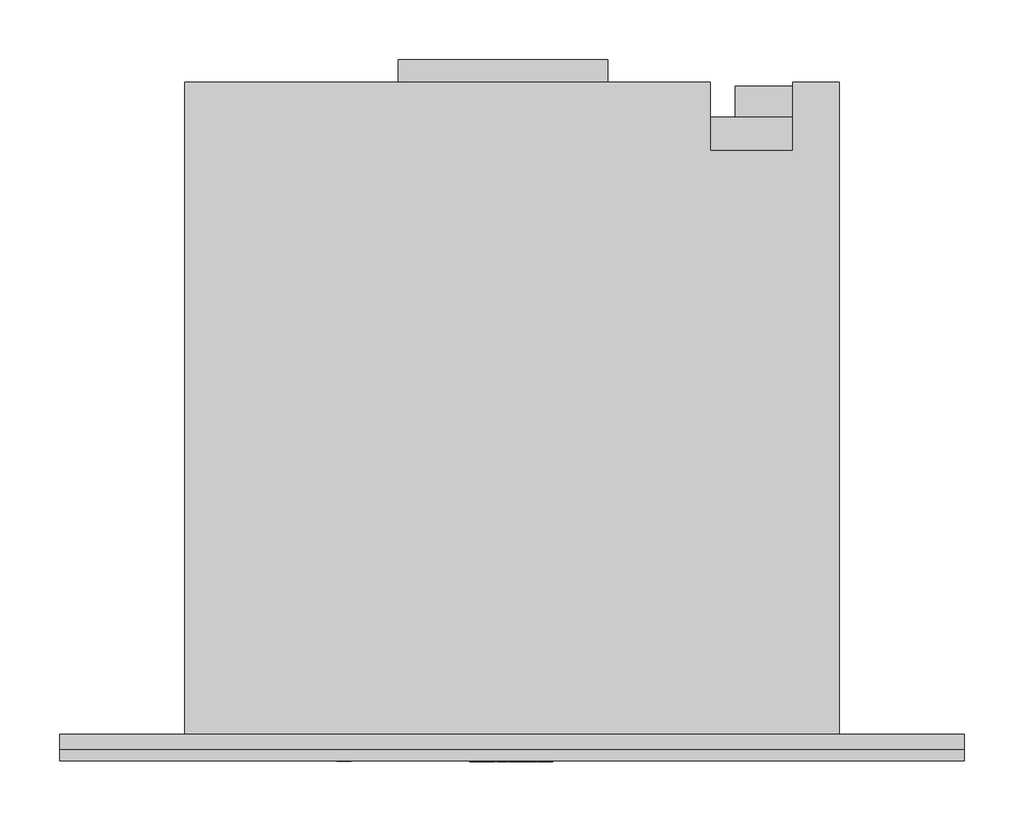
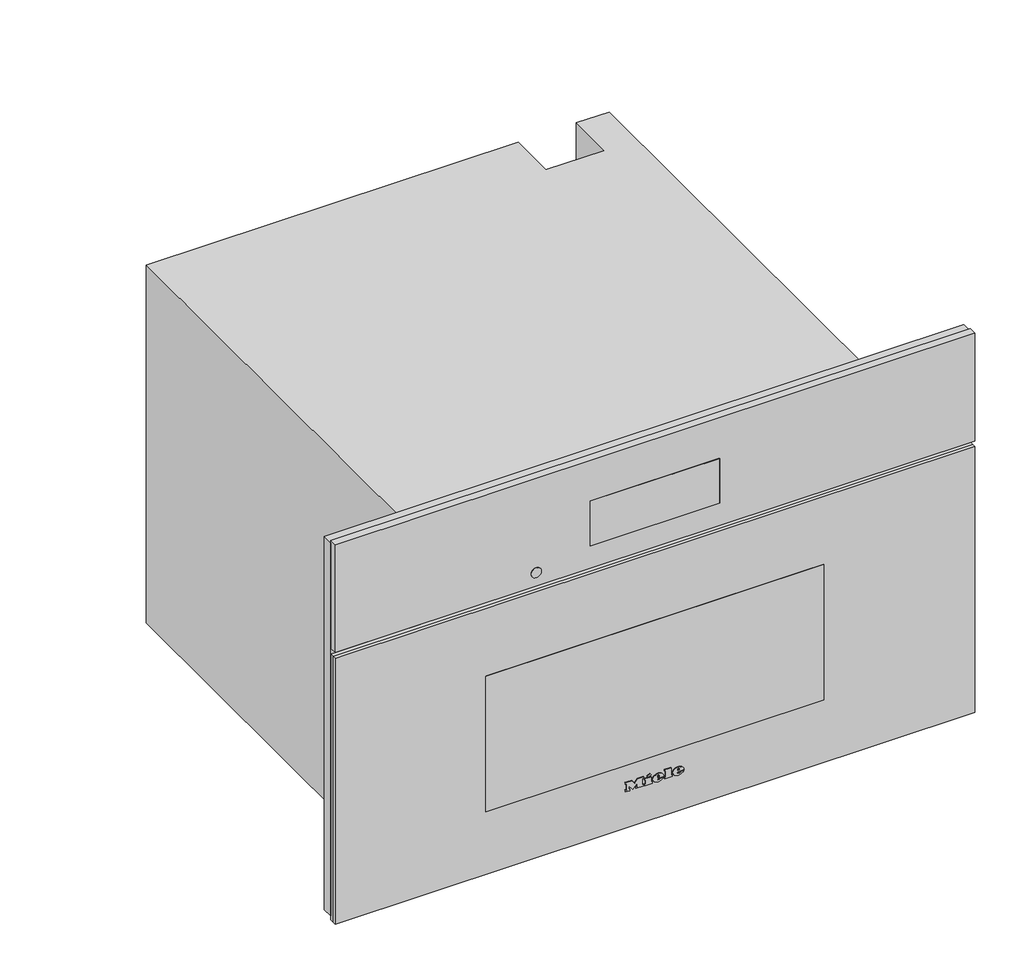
# Not in any storey: 1 proxy.
"""IFC4 building model written with IfcOpenShell, lengths in millimetres."""

import ifcopenshell
import ifcopenshell.guid

model = None  # the IFC model being written
_history = None  # IfcOwnerHistory: only IFC2X3 demands one
_inside = {}  # id of a spatial element -> (the spatial element, [elements in it])
_under = {}  # id of a project, library or spatial element -> (it, [spatial elements below it])
_declared = {}  # id of a project -> (the project, [libraries it declares])
_typed = {}  # id of a type object -> (the type object, [elements of that type])
_made_of = {}  # id of a material, layer set ... -> (it, [elements and type objects made of it])


def new_model(schema):
    """Start an empty IFC model of exactly this schema.

    Asked for "IFC4X3", IfcOpenShell would pick the latest addendum, in which some entities
    have other attributes; the version numbers below select the first issue.
    IFC2X3 requires an IfcOwnerHistory on every rooted entity: one is made here for all.
    """
    global model, _history
    if schema == "IFC4X3":
        model = ifcopenshell.file(schema_version=(4, 3, 0, 0))
    else:
        model = ifcopenshell.file(schema=schema)
    _inside.clear()
    _under.clear()
    _declared.clear()
    _typed.clear()
    _made_of.clear()
    _history = None
    if model.schema == "IFC2X3":
        org = make("IfcOrganization", Name="unknown")
        user = make(
            "IfcPersonAndOrganization",
            ThePerson=make("IfcPerson", FamilyName="unknown"),
            TheOrganization=org,
        )
        app = make(
            "IfcApplication",
            ApplicationDeveloper=org,
            Version="unknown",
            ApplicationFullName="unknown",
            ApplicationIdentifier="unknown",
        )
        _history = make(
            "IfcOwnerHistory",
            OwningUser=user,
            OwningApplication=app,
            ChangeAction="ADDED",
            CreationDate=0,
        )
    return model


def make(cls, **values):
    """One entity of the class cls with the attributes given. An attribute that is None is left unset."""
    return model.create_entity(
        cls, **{name: value for name, value in values.items() if value is not None}
    )


def rooted(cls, **values):
    """An entity with a GlobalId (a new one), such as an element, a storey or a relation."""
    return make(cls, GlobalId=ifcopenshell.guid.new(), OwnerHistory=_history, **values)


def si_unit(unit_type, name, prefix=None):
    """IfcSIUnit, for example si_unit("LENGTHUNIT", "METRE", prefix="MILLI")."""
    return make("IfcSIUnit", UnitType=unit_type, Prefix=prefix, Name=name)


def assignment(units):
    """IfcUnitAssignment: the units of a project."""
    return None if units is None else make("IfcUnitAssignment", Units=units)


def point(xyz):
    """IfcCartesianPoint."""
    return None if xyz is None else make("IfcCartesianPoint", Coordinates=xyz)


def direction(xyz):
    """IfcDirection."""
    return None if xyz is None else make("IfcDirection", DirectionRatios=xyz)


def frame(location, z_axis=None, x_axis=None):
    """IfcAxis2Placement3D, a coordinate frame: its origin and axes. An axis left out is left unset."""
    return make(
        "IfcAxis2Placement3D",
        Location=point(location),
        Axis=direction(z_axis),
        RefDirection=direction(x_axis),
    )


def frame_2d(location, x_axis=None):
    """IfcAxis2Placement2D, a coordinate frame in the plane: its origin and x axis."""
    return make(
        "IfcAxis2Placement2D", Location=point(location), RefDirection=direction(x_axis)
    )


def origin():
    """The frame at (0, 0, 0) with its axes left unset."""
    return frame((0.0, 0.0, 0.0))


def place(relative_to, where):
    """IfcLocalPlacement: puts the frame where relative to a parent placement (None: the world)."""
    return make(
        "IfcLocalPlacement", PlacementRelTo=relative_to, RelativePlacement=where
    )


def context(
    kind, dimensions, precision=None, world=None, true_north=None, identifier=None
):
    """IfcGeometricRepresentationContext, for example the 3D "Model" context."""
    return make(
        "IfcGeometricRepresentationContext",
        ContextIdentifier=identifier,
        ContextType=kind,
        CoordinateSpaceDimension=dimensions,
        Precision=precision,
        WorldCoordinateSystem=world,
        TrueNorth=true_north,
    )


def project(units=None, contexts=None):
    """IfcProject with its units and contexts."""
    return rooted(
        "IfcProject",
        Name="project",
        RepresentationContexts=contexts,
        UnitsInContext=assignment(units),
    )


def spatial(cls, under=None, at=None, **own):
    """A site, building, storey or space (cls), placed at a placement, below another one or the project."""
    s = rooted(cls, ObjectPlacement=at, **own)
    if under is not None:
        _under.setdefault(under.id(), (under, []))[1].append(s)
    return s


def polyline(points):
    """IfcPolyline through the points."""
    return make("IfcPolyline", Points=[point(p) for p in points])


def circle_curve(where, radius):
    """IfcCircle in the frame where."""
    return make("IfcCircle", Position=where, Radius=radius)


def ellipse_curve(where, semi_axis1, semi_axis2):
    """IfcEllipse in the frame where."""
    return make(
        "IfcEllipse", Position=where, SemiAxis1=semi_axis1, SemiAxis2=semi_axis2
    )


def trimmed(basis, trim1, trim2, sense, master):
    """IfcTrimmedCurve: the piece of a basis curve between two trims."""
    return make(
        "IfcTrimmedCurve",
        BasisCurve=basis,
        Trim1=trim1,
        Trim2=trim2,
        SenseAgreement=sense,
        MasterRepresentation=master,
    )


def segment(curve, same_sense, transition):
    """IfcCompositeCurveSegment."""
    return make(
        "IfcCompositeCurveSegment",
        Transition=transition,
        SameSense=same_sense,
        ParentCurve=curve,
    )


def composite_curve(segments, self_intersect=None):
    """IfcCompositeCurve: segments joined end to end."""
    return make("IfcCompositeCurve", Segments=segments, SelfIntersect=self_intersect)


def outline(outer, holes=None, kind="AREA"):
    """IfcArbitraryClosedProfileDef: a profile drawn as a closed curve; with holes, ...WithVoids."""
    if holes is None:
        return make("IfcArbitraryClosedProfileDef", ProfileType=kind, OuterCurve=outer)
    return make(
        "IfcArbitraryProfileDefWithVoids",
        ProfileType=kind,
        OuterCurve=outer,
        InnerCurves=holes,
    )


def extrude(swept, where, along, depth):
    """IfcExtrudedAreaSolid: the profile swept, set in the frame where, extruded along a direction by depth."""
    return make(
        "IfcExtrudedAreaSolid",
        SweptArea=swept,
        Position=where,
        ExtrudedDirection=direction(along),
        Depth=depth,
    )


def faces_of(points, faces, orient=None, outer=None):
    """IfcFace entities. A face is a list of loops; a loop is a list of indices into points, from 0.

    orient and outer hold one flag for each loop. By default every Orientation is true, the
    first loop of a face is its IfcFaceOuterBound and the others are IfcFaceBound.
    """
    made = []
    for i, loops in enumerate(faces):
        bounds = []
        for j, loop in enumerate(loops):
            is_outer = j == 0 if outer is None else outer[i][j]
            bounds.append(
                make(
                    "IfcFaceOuterBound" if is_outer else "IfcFaceBound",
                    Bound=make("IfcPolyLoop", Polygon=[points[k] for k in loop]),
                    Orientation=True if orient is None else orient[i][j],
                )
            )
        made.append(make("IfcFace", Bounds=bounds))
    return made


def faceted_brep(points, faces, orient=None, outer=None, voids=None):
    """IfcFacetedBrep: a solid bounded by flat faces; with voids (closed shells), ...WithVoids."""
    shared = [point(p) for p in points]
    hull = make("IfcClosedShell", CfsFaces=faces_of(shared, faces, orient, outer))
    if voids is None:
        return make("IfcFacetedBrep", Outer=hull)
    return make(
        "IfcFacetedBrepWithVoids",
        Outer=hull,
        Voids=[
            make(cls, CfsFaces=faces_of(shared, fs, o, b)) for cls, fs, o, b in voids
        ],
    )


def shape(context_of_items, identifier, shape_type, items):
    """IfcShapeRepresentation: the items that make up one representation, for example the "Body"."""
    return make(
        "IfcShapeRepresentation",
        ContextOfItems=context_of_items,
        RepresentationIdentifier=identifier,
        RepresentationType=shape_type,
        Items=items,
    )


def source(mapping_origin, context_of_items, identifier, shape_type, items):
    """IfcRepresentationMap: a shape defined once, which mapped items show again and again."""
    return make(
        "IfcRepresentationMap",
        MappingOrigin=mapping_origin,
        MappedRepresentation=shape(context_of_items, identifier, shape_type, items),
    )


def transform(
    local_origin,
    x_axis=None,
    y_axis=None,
    z_axis=None,
    scale=None,
    scale2=None,
    scale3=None,
    uniform=True,
):
    """IfcCartesianTransformationOperator3D, or its non-uniform kind. x_axis, y_axis, z_axis: its Axis1, 2, 3."""
    if uniform:
        return make(
            "IfcCartesianTransformationOperator3D",
            Axis1=direction(x_axis),
            Axis2=direction(y_axis),
            LocalOrigin=point(local_origin),
            Scale=scale,
            Axis3=direction(z_axis),
        )
    return make(
        "IfcCartesianTransformationOperator3DnonUniform",
        Axis1=direction(x_axis),
        Axis2=direction(y_axis),
        LocalOrigin=point(local_origin),
        Scale=scale,
        Axis3=direction(z_axis),
        Scale2=scale2,
        Scale3=scale3,
    )


def mapped(mapping_source, mapping_target):
    """IfcMappedItem: shows the shape of a source again, moved by a transform."""
    return make(
        "IfcMappedItem", MappingSource=mapping_source, MappingTarget=mapping_target
    )


def made_of(thing, what):
    """Note that an element or type object is made of a material, layer set ...; save() writes the relation."""
    if what is not None:
        _made_of.setdefault(what.id(), (what, []))[1].append(thing)
    return thing


def element(
    cls,
    number,
    at=None,
    inside=None,
    cuts=None,
    type_object=None,
    material=None,
    context=None,
    identifier="Body",
    shape_type=None,
    held_by="IfcProductDefinitionShape",
    body=None,
    shapes=None,
    **own,
):
    """One element of the class cls, such as IfcWall. Its Tag is "e" and its number.

    at: its placement. inside: the storey or other place that contains it. cuts: it is an
    opening in that element (IfcRelVoidsElement). A single representation is given by context,
    identifier, shape_type and body (its items); several are given by shapes. held_by: the class
    of the entity that holds the representations. save() writes the other relations.
    """
    e = rooted(cls, Tag="e%d" % number, ObjectPlacement=at, **own)
    if body is not None:
        shapes = [shape(context, identifier, shape_type, body)]
    if shapes is not None:
        e.Representation = make(held_by, Representations=shapes)
    if inside is not None:
        _inside.setdefault(inside.id(), (inside, []))[1].append(e)
    if cuts is not None:
        rooted(
            "IfcRelVoidsElement", RelatingBuildingElement=cuts, RelatedOpeningElement=e
        )
    if type_object is not None:
        _typed.setdefault(type_object.id(), (type_object, []))[1].append(e)
    return made_of(e, material)


def aggregate(whole, parts):
    """IfcRelAggregates: a whole, such as a stair, and the parts it consists of."""
    return rooted("IfcRelAggregates", RelatingObject=whole, RelatedObjects=parts)


def save(model, path):
    """Write the relations noted so far, then the file.

    IfcRelAggregates (storeys below a building ...), IfcRelContainedInSpatialStructure (elements
    in a storey), IfcRelDefinesByType, IfcRelAssociatesMaterial and IfcRelDeclares: one each for
    every whole, place, type object, material and project.
    """
    for whole, parts in _under.values():
        aggregate(whole, parts)
    for where, things in _inside.values():
        rooted(
            "IfcRelContainedInSpatialStructure",
            RelatedElements=things,
            RelatingStructure=where,
        )
    for kind, things in _typed.values():
        rooted("IfcRelDefinesByType", RelatedObjects=things, RelatingType=kind)
    for what, things in _made_of.values():
        rooted("IfcRelAssociatesMaterial", RelatedObjects=things, RelatingMaterial=what)
    for by, libraries in _declared.values():
        rooted("IfcRelDeclares", RelatingContext=by, RelatedDefinitions=libraries)
    model.write(path)


def plane_surface(at):
    """IfcPlane: the flat surface through the origin of the frame at, square to its z axis."""
    return make("IfcPlane", Position=at)


def cylinder_surface(at, radius):
    """IfcCylindricalSurface: all points at the distance radius from the z axis of the frame at."""
    return make("IfcCylindricalSurface", Position=at, Radius=radius)


def revolved_surface(curve, axis_point, axis_direction):
    """IfcSurfaceOfRevolution: the curve turned about the line through axis_point along axis_direction."""
    return make(
        "IfcSurfaceOfRevolution",
        SweptCurve=make("IfcArbitraryOpenProfileDef", ProfileType="CURVE", Curve=curve),
        AxisPosition=make("IfcAxis1Placement", Location=point(axis_point), Axis=direction(axis_direction)),
    )


def extruded_surface(curve, direction_of_extrusion, depth):
    """IfcSurfaceOfLinearExtrusion: the curve pushed along a direction by depth."""
    return make(
        "IfcSurfaceOfLinearExtrusion",
        SweptCurve=make("IfcArbitraryOpenProfileDef", ProfileType="CURVE", Curve=curve),
        ExtrudedDirection=direction(direction_of_extrusion),
        Depth=depth,
    )


def advanced_brep(points, edges, surfaces, faces):
    """IfcAdvancedBrep: a solid bounded by faces that lie on surfaces and meet in shared edges.

    An edge is (start, end): straight between two places in points (the first is 0);
    or (start, end, curve); or (start, end, curve, False) where it runs against its curve.
    A face is (place in surfaces, loops), or (place, loops, False) where it looks against
    its surface's normal. A loop lists edges by number (the first is 1), with a minus sign
    where the edge is run from its end to its start. The first loop is the outer one.
    """
    corners = [point(p) for p in points]
    vertices = [make("IfcVertexPoint", VertexGeometry=c) for c in corners]
    made = []
    for start, end, *more in edges:
        made.append(
            make(
                "IfcEdgeCurve",
                EdgeStart=vertices[start],
                EdgeEnd=vertices[end],
                EdgeGeometry=more[0] if more else make("IfcPolyline", Points=[corners[start], corners[end]]),
                SameSense=more[1] if len(more) > 1 else True,
            )
        )
    hull = []
    for where, loops, *sense in faces:
        bounds = []
        for j, loop in enumerate(loops):
            ring = [make("IfcOrientedEdge", EdgeElement=made[abs(k) - 1], Orientation=k > 0) for k in loop]
            bounds.append(
                make(
                    "IfcFaceOuterBound" if j == 0 else "IfcFaceBound",
                    Bound=make("IfcEdgeLoop", EdgeList=ring),
                    Orientation=True,
                )
            )
        hull.append(make("IfcAdvancedFace", Bounds=bounds, FaceSurface=surfaces[where], SameSense=sense[0] if sense else True))
    return make("IfcAdvancedBrep", Outer=make("IfcClosedShell", CfsFaces=hull))


def specialty_equipment_b96cb7f9(model_context):
    return source(origin(), model_context, "Body", "SolidModel", [
        faceted_brep([(378.5, -13.0, 476.0), (-378.5, -13.0, 476.0), (-378.5, -13.0, 9.0), (-272.5, -13.0, 9.0), (-272.5, -13.0, 344.0), (272.5, -13.0, 344.0), (272.5, -13.0, 9.0), (378.5, -13.0, 9.0), (378.5, 0.0, 476.0), (378.5, 0.0, 9.0), (-378.5, 0.0, 9.0), (-378.5, 0.0, 476.0), (231.0, 0.0, 58.0), (231.0, 0.0, 286.0), (-231.0, 0.0, 286.0), (-231.0, 0.0, 58.0), (272.5, -5.0, 9.0), (-272.5, -5.0, 9.0), (-272.5, -5.0, 344.0), (272.5, -5.0, 344.0), (231.0, -5.0, 286.0), (231.0, -5.0, 58.0), (-231.0, -5.0, 58.0), (-231.0, -5.0, 286.0)], [[[0, 1, 2, 3, 4, 5, 6, 7]], [[8, 9, 10, 11], [12, 13, 14, 15]], [[1, 0, 8, 11]], [[2, 1, 11, 10]], [[10, 9, 7, 6, 16, 17, 3, 2]], [[0, 7, 9, 8]], [[18, 19, 5, 4]], [[18, 4, 3, 17]], [[5, 19, 16, 6]], [[19, 18, 17, 16], [20, 21, 22, 23]], [[20, 13, 12, 21]], [[21, 12, 15, 22]], [[22, 15, 14, 23]], [[13, 20, 23, 14]]]),
        extrude(outline(polyline([(-95.0, 565.0), (80.0, 565.0), (80.0, 546.0), (-95.0, 546.0), (-95.0, 565.0)])), frame((0.0, 0.0, 260.0), z_axis=(0.0, 0.0, 1.0), x_axis=(1.0, 0.0, 0.0)), (0.0, 0.0, 1.0), 1.0),
        extrude(outline(polyline([(224.8383288, 537.0), (231.1236409, 537.0), (231.1236409, 526.9492425), (229.8571792, 526.9492425), (229.8571792, 535.7409796), (224.8383288, 535.7409796), (224.8383288, 537.0)])), frame((0.0, 0.0, 132.0), z_axis=(0.0, 0.0, 1.0), x_axis=(1.0, 0.0, 0.0)), (0.0, 0.0, 1.0), 1.0),
        extrude(outline(polyline([(233.0, 537.0), (240.3797826, 537.0), (240.3797826, 526.9503529), (233.15422, 526.9503529), (233.15422, 528.220938), (239.1355215, 528.220938), (239.1355215, 531.1975645), (233.4863097, 531.1975645), (233.4863097, 532.449242), (239.1355215, 532.449242), (239.1355215, 535.7448633), (233.0, 535.7448633), (233.0, 537.0)])), frame((0.0, 0.0, 132.0), z_axis=(0.0, 0.0, 1.0), x_axis=(1.0, 0.0, 0.0)), (0.0, 0.0, 1.0), 1.0),
        extrude(outline(composite_curve([segment(trimmed(circle_curve(frame_2d((233.0, 532.0)), 7.5), [point((225.5, 532.0))], [point((240.5, 532.0))], False, "CARTESIAN"), True, "CONTINUOUS"), segment(trimmed(circle_curve(frame_2d((233.0, 532.0)), 7.5), [point((240.5, 532.0))], [point((225.5, 532.0))], False, "CARTESIAN"), True, "CONTINUOUS")], self_intersect=False)), frame((0.0, 0.0, 133.0), z_axis=(0.0, 0.0, 1.0), x_axis=(1.0, 0.0, 0.0)), (0.0, 0.0, 1.0), 30.0),
        extrude(outline(polyline([(266.0, 517.0), (187.0, 517.0), (187.0, 543.0), (266.0, 543.0), (266.0, 517.0)])), frame((0.0, 0.0, 163.0), z_axis=(0.0, 0.0, 1.0), x_axis=(1.0, 0.0, 0.0)), (0.0, 0.0, 1.0), 111.0),
        faceted_brep([(-274.0, 546.0, 0.0), (-274.0, 546.0, 448.0), (166.0, 546.0, 448.0), (166.0, 546.0, 0.0), (235.0, 546.0, 448.0), (274.0, 546.0, 448.0), (274.0, 546.0, 338.0), (235.0, 546.0, 338.0), (274.0, 0.0, 448.0), (-274.0, 0.0, 448.0), (-274.0, 0.0, 0.0), (274.0, 0.0, 0.0), (231.0, 0.0, 286.0), (231.0, 0.0, 58.0), (-231.0, 0.0, 58.0), (-231.0, 0.0, 286.0), (235.0, 489.0, 448.0), (166.0, 489.0, 448.0), (166.0, 517.0, 0.0), (274.0, 517.0, 0.0), (274.0, 517.0, 338.0), (231.0, 411.0, 286.0), (-231.0, 411.0, 286.0), (-231.0, 411.0, 58.0), (231.0, 411.0, 58.0), (235.0, 489.0, 337.0), (166.0, 489.0, 337.0), (166.0, 517.0, 337.0), (235.0, 517.0, 337.0), (235.0, 517.0, 338.0)], [[[0, 1, 2, 3]], [[4, 5, 6, 7]], [[8, 9, 10, 11], [12, 13, 14, 15]], [[9, 8, 5, 4, 16, 17, 2, 1]], [[1, 0, 10, 9]], [[11, 10, 0, 3, 18, 19]], [[8, 11, 19, 20, 6, 5]], [[21, 22, 23, 24]], [[21, 24, 13, 12]], [[24, 23, 14, 13]], [[23, 22, 15, 14]], [[22, 21, 12, 15]], [[16, 25, 26, 17]], [[17, 26, 27, 18, 3, 2]], [[26, 25, 28, 27]], [[25, 16, 4, 7, 29, 28]], [[29, 20, 19, 18, 27, 28]], [[20, 29, 7, 6]]]),
        advanced_brep(
        [(26.2998, -23.0, 52.7018), (26.2998, -23.0, 53.8532), (33.9264, -23.0, 53.8532), (20.6568, -23.0, 53.8532), (23.7918, -23.0, 50.0), (33.7326, -23.0, 52.7018), (30.2898, -23.0, 52.7018), (27.5766, -23.0, 51.425), (26.2998, -23.0, 55.3124), (26.2998, -23.0, 56.555), (28.2492, -23.0, 56.555), (28.2492, -23.0, 55.3124), (26.2998, -22.0, 52.7018), (27.5766, -22.0, 51.425), (30.2898, -22.0, 52.7018), (33.7326, -22.0, 52.7018), (23.7918, -22.0, 50.0), (20.6568, -22.0, 53.8532), (33.9264, -22.0, 53.8532), (26.2998, -22.0, 53.8532), (26.2998, -22.0, 55.3124), (28.2492, -22.0, 55.3124), (28.2492, -22.0, 56.555), (26.2998, -22.0, 56.555)],
        [
            (0, 1),
            (1, 2),
            (2, 3, ellipse_curve(frame((27.2916, -23.0, 53.8532), z_axis=(0.0, -1.0, 0.0), x_axis=(-1.0, 0.0, 0.0)), 6.6348, 5.4834)),
            (3, 4, circle_curve(frame((25.0686622, -23.0, 54.2408), z_axis=(0.0, -1.0, 0.0), x_axis=(0.0, 0.0, -1.0)), 4.4288556)),
            (4, 5, circle_curve(frame((27.1587808, -23.0, 57.2504), z_axis=(0.0, -1.0, 0.0), x_axis=(0.0, 0.0, -1.0)), 7.9940516)),
            (5, 6),
            (6, 7, circle_curve(frame((28.1338588, -23.0, 53.762), z_axis=(0.0, 1.0, 0.0), x_axis=(0.0, 0.0, -1.0)), 2.4025208)),
            (7, 0, circle_curve(frame((27.5766, -23.0, 52.7018), z_axis=(0.0, 1.0, 0.0), x_axis=(0.0, 0.0, -1.0)), 1.2768)),
            (8, 9),
            (9, 10, circle_curve(frame((27.2745, -23.0, 56.555), z_axis=(0.0, 1.0, 0.0), x_axis=(0.0, 0.0, -1.0)), 0.9747)),
            (10, 11),
            (11, 8),
            (12, 13, circle_curve(frame((27.5766, -22.0, 52.7018), z_axis=(0.0, -1.0, 0.0), x_axis=(0.0, 0.0, -1.0)), 1.2768)),
            (13, 14, circle_curve(frame((28.1338588, -22.0, 53.762), z_axis=(0.0, -1.0, 0.0), x_axis=(0.0, 0.0, -1.0)), 2.4025208)),
            (14, 15),
            (15, 16, circle_curve(frame((27.1587808, -22.0, 57.2504), z_axis=(0.0, 1.0, 0.0), x_axis=(0.0, 0.0, -1.0)), 7.9940516)),
            (16, 17, circle_curve(frame((25.0686622, -22.0, 54.2408), z_axis=(0.0, 1.0, 0.0), x_axis=(0.0, 0.0, -1.0)), 4.4288556)),
            (17, 18, ellipse_curve(frame((27.2916, -22.0, 53.8532), z_axis=(0.0, 1.0, 0.0), x_axis=(-1.0, 0.0, 0.0)), 6.6348, 5.4834)),
            (18, 19),
            (19, 12),
            (20, 21),
            (21, 22),
            (22, 23, circle_curve(frame((27.2745, -22.0, 56.555), z_axis=(0.0, -1.0, 0.0), x_axis=(0.0, 0.0, -1.0)), 0.9747)),
            (23, 20),
            (0, 12),
            (19, 1),
            (18, 2),
            (5, 15),
            (14, 6),
            (17, 3),
            (13, 7),
            (16, 4),
            (8, 20),
            (23, 9),
            (22, 10),
            (21, 11),
        ],
        [
            plane_surface(frame((26.2998, -23.0, 53.8532), z_axis=(0.0, -1.0, 0.0), x_axis=(0.0, 0.0, 1.0))),
            plane_surface(frame((26.2998, -22.0, 53.8532), z_axis=(0.0, 1.0, 0.0), x_axis=(0.0, 0.0, -1.0))),
            plane_surface(frame((26.2998, -23.0, 52.7018), z_axis=(1.0, 0.0, 0.0), x_axis=(0.0, 1.0, 0.0))),
            plane_surface(frame((26.2998, -23.0, 53.8532), z_axis=(0.0, 0.0, -1.0), x_axis=(0.0, 1.0, 0.0))),
            plane_surface(frame((33.7326, -23.0, 52.7018), z_axis=(0.0, 0.0, 1.0), x_axis=(0.0, 1.0, 0.0))),
            extruded_surface(trimmed(ellipse_curve(frame((27.2916, -21.0, 53.8532), z_axis=(0.0, -1.0, 0.0), x_axis=(-1.0, 0.0, 0.0)), 6.6348, 5.4834), [point((33.9264, -21.0, 53.8532))], [point((20.6568, -21.0, 53.8532))], True, "CARTESIAN"), (0.0, -1.0, 0.0), 1.0),
            revolved_surface(polyline([(28.1338588, -22.0, 51.3594792), (28.1338588, -23.0, 51.3594792)]), (28.1338588, -22.0, 53.762), (0.0, 1.0, 0.0)),
            revolved_surface(polyline([(27.5766, -22.0, 51.425), (27.5766, -23.0, 51.425)]), (27.5766, -22.0, 52.7018), (0.0, 1.0, 0.0)),
            cylinder_surface(frame((25.0686622, -22.0, 54.2408), z_axis=(0.0, -1.0, 0.0), x_axis=(0.0, 0.0, -1.0)), 4.4288556),
            cylinder_surface(frame((27.1587808, -22.0, 57.2504), z_axis=(0.0, -1.0, 0.0), x_axis=(0.0, 0.0, -1.0)), 7.9940516),
            plane_surface(frame((26.2998, -23.0, 55.3124), z_axis=(1.0, 0.0, 0.0), x_axis=(0.0, 1.0, 0.0))),
            revolved_surface(polyline([(27.2745, -22.0, 55.5803), (27.2745, -23.0, 55.5803)]), (27.2745, -22.0, 56.555), (0.0, 1.0, 0.0)),
            plane_surface(frame((28.2492, -23.0, 56.555), z_axis=(-1.0, 0.0, 0.0), x_axis=(0.0, 1.0, 0.0))),
            plane_surface(frame((28.2492, -23.0, 55.3124), z_axis=(0.0, 0.0, 1.0), x_axis=(0.0, 1.0, 0.0))),
        ],
        [
            (0, [[1, 2, 3, 4, 5, 6, 7, 8], [9, 10, 11, 12]]),
            (1, [[13, 14, 15, 16, 17, 18, 19, 20], [21, 22, 23, 24]]),
            (2, [[-1, 25, -20, 26]]),
            (3, [[-2, -26, -19, 27]]),
            (4, [[-6, 28, -15, 29]]),
            (5, [[-3, -27, -18, 30]]),
            (6, [[-7, -29, -14, 31]]),
            (7, [[-8, -31, -13, -25]]),
            (8, [[-4, -30, -17, 32]]),
            (9, [[-5, -32, -16, -28]]),
            (10, [[-9, 33, -24, 34]]),
            (11, [[-10, -34, -23, 35]]),
            (12, [[-11, -35, -22, 36]]),
            (13, [[-12, -36, -21, -33]]),
        ],
    ),
        advanced_brep(
        [(2.508, -23.0, 52.7018), (2.508, -23.0, 53.8532), (10.1346, -23.0, 53.8532), (-3.135, -23.0, 53.8532), (0.0, -23.0, 50.0), (9.9408, -23.0, 52.7018), (6.498, -23.0, 52.7018), (3.7848, -23.0, 51.425), (2.508, -23.0, 55.3124), (2.508, -23.0, 56.555), (4.4574, -23.0, 56.555), (4.4574, -23.0, 55.3124), (2.508, -22.0, 52.7018), (3.7848, -22.0, 51.425), (6.498, -22.0, 52.7018), (9.9408, -22.0, 52.7018), (0.0, -22.0, 50.0), (-3.135, -22.0, 53.8532), (10.1346, -22.0, 53.8532), (2.508, -22.0, 53.8532), (2.508, -22.0, 55.3124), (4.4574, -22.0, 55.3124), (4.4574, -22.0, 56.555), (2.508, -22.0, 56.555)],
        [
            (0, 1),
            (1, 2),
            (2, 3, ellipse_curve(frame((3.4998, -23.0, 53.8532), z_axis=(0.0, -1.0, 0.0), x_axis=(-1.0, 0.0, 0.0)), 6.6348, 5.4834)),
            (3, 4, circle_curve(frame((1.2768622, -23.0, 54.2408), z_axis=(0.0, -1.0, 0.0), x_axis=(0.0, 0.0, -1.0)), 4.4288556)),
            (4, 5, circle_curve(frame((3.3669808, -23.0, 57.2504), z_axis=(0.0, -1.0, 0.0), x_axis=(0.0, 0.0, -1.0)), 7.9940516)),
            (5, 6),
            (6, 7, circle_curve(frame((4.3420588, -23.0, 53.762), z_axis=(0.0, 1.0, 0.0), x_axis=(0.0, 0.0, -1.0)), 2.4025208)),
            (7, 0, circle_curve(frame((3.7848, -23.0, 52.7018), z_axis=(0.0, 1.0, 0.0), x_axis=(0.0, 0.0, -1.0)), 1.2768)),
            (8, 9),
            (9, 10, circle_curve(frame((3.4827, -23.0, 56.555), z_axis=(0.0, 1.0, 0.0), x_axis=(0.0, 0.0, -1.0)), 0.9747)),
            (10, 11),
            (11, 8),
            (12, 13, circle_curve(frame((3.7848, -22.0, 52.7018), z_axis=(0.0, -1.0, 0.0), x_axis=(0.0, 0.0, -1.0)), 1.2768)),
            (13, 14, circle_curve(frame((4.3420588, -22.0, 53.762), z_axis=(0.0, -1.0, 0.0), x_axis=(0.0, 0.0, -1.0)), 2.4025208)),
            (14, 15),
            (15, 16, circle_curve(frame((3.3669808, -22.0, 57.2504), z_axis=(0.0, 1.0, 0.0), x_axis=(0.0, 0.0, -1.0)), 7.9940516)),
            (16, 17, circle_curve(frame((1.2768622, -22.0, 54.2408), z_axis=(0.0, 1.0, 0.0), x_axis=(0.0, 0.0, -1.0)), 4.4288556)),
            (17, 18, ellipse_curve(frame((3.4998, -22.0, 53.8532), z_axis=(0.0, 1.0, 0.0), x_axis=(-1.0, 0.0, 0.0)), 6.6348, 5.4834)),
            (18, 19),
            (19, 12),
            (20, 21),
            (21, 22),
            (22, 23, circle_curve(frame((3.4827, -22.0, 56.555), z_axis=(0.0, -1.0, 0.0), x_axis=(0.0, 0.0, -1.0)), 0.9747)),
            (23, 20),
            (0, 12),
            (19, 1),
            (18, 2),
            (5, 15),
            (14, 6),
            (17, 3),
            (13, 7),
            (16, 4),
            (8, 20),
            (23, 9),
            (22, 10),
            (21, 11),
        ],
        [
            plane_surface(frame((2.508, -23.0, 53.8532), z_axis=(0.0, -1.0, 0.0), x_axis=(0.0, 0.0, 1.0))),
            plane_surface(frame((2.508, -22.0, 53.8532), z_axis=(0.0, 1.0, 0.0), x_axis=(0.0, 0.0, -1.0))),
            plane_surface(frame((2.508, -23.0, 52.7018), z_axis=(1.0, 0.0, 0.0), x_axis=(0.0, 1.0, 0.0))),
            plane_surface(frame((2.508, -23.0, 53.8532), z_axis=(0.0, 0.0, -1.0), x_axis=(0.0, 1.0, 0.0))),
            plane_surface(frame((9.9408, -23.0, 52.7018), z_axis=(0.0, 0.0, 1.0), x_axis=(0.0, 1.0, 0.0))),
            extruded_surface(trimmed(ellipse_curve(frame((3.4998, -21.0, 53.8532), z_axis=(0.0, -1.0, 0.0), x_axis=(-1.0, 0.0, 0.0)), 6.6348, 5.4834), [point((10.1346, -21.0, 53.8532))], [point((-3.135, -21.0, 53.8532))], True, "CARTESIAN"), (0.0, -1.0, 0.0), 1.0),
            revolved_surface(polyline([(4.3420588, -22.0, 51.3594792), (4.3420588, -23.0, 51.3594792)]), (4.3420588, -22.0, 53.762), (0.0, 1.0, 0.0)),
            revolved_surface(polyline([(3.7848, -22.0, 51.425), (3.7848, -23.0, 51.425)]), (3.7848, -22.0, 52.7018), (0.0, 1.0, 0.0)),
            cylinder_surface(frame((1.2768622, -22.0, 54.2408), z_axis=(0.0, -1.0, 0.0), x_axis=(0.0, 0.0, -1.0)), 4.4288556),
            cylinder_surface(frame((3.3669808, -22.0, 57.2504), z_axis=(0.0, -1.0, 0.0), x_axis=(0.0, 0.0, -1.0)), 7.9940516),
            plane_surface(frame((2.508, -23.0, 55.3124), z_axis=(1.0, 0.0, 0.0), x_axis=(0.0, 1.0, 0.0))),
            revolved_surface(polyline([(3.4827, -22.0, 55.5803), (3.4827, -23.0, 55.5803)]), (3.4827, -22.0, 56.555), (0.0, 1.0, 0.0)),
            plane_surface(frame((4.4574, -23.0, 56.555), z_axis=(-1.0, 0.0, 0.0), x_axis=(0.0, 1.0, 0.0))),
            plane_surface(frame((4.4574, -23.0, 55.3124), z_axis=(0.0, 0.0, 1.0), x_axis=(0.0, 1.0, 0.0))),
        ],
        [
            (0, [[1, 2, 3, 4, 5, 6, 7, 8], [9, 10, 11, 12]]),
            (1, [[13, 14, 15, 16, 17, 18, 19, 20], [21, 22, 23, 24]]),
            (2, [[-1, 25, -20, 26]]),
            (3, [[-2, -26, -19, 27]]),
            (4, [[-6, 28, -15, 29]]),
            (5, [[-3, -27, -18, 30]]),
            (6, [[-7, -29, -14, 31]]),
            (7, [[-8, -31, -13, -25]]),
            (8, [[-4, -30, -17, 32]]),
            (9, [[-5, -32, -16, -28]]),
            (10, [[-9, 33, -24, 34]]),
            (11, [[-10, -34, -23, 35]]),
            (12, [[-11, -35, -22, 36]]),
            (13, [[-12, -36, -21, -33]]),
        ],
    ),
        extrude(outline(polyline([(60.7274, -9.9522), (58.8806, -9.0858), (60.6818, -5.2212), (62.5286, -6.0762), (60.7274, -9.9522)])), frame((0.0, -23.0, 0.0), z_axis=(0.0, 1.0, 0.0), x_axis=(0.0, 0.0, 1.0)), (0.0, 0.0, 1.0), 1.0),
        extrude(outline(polyline([(58.6298, -12.768), (56.5892, -12.768), (56.5892, -11.4114), (51.9152, -11.4114), (51.9152, -12.768), (50.0, -12.768), (50.0, -3.7734), (51.9152, -3.7734), (51.9152, -5.0958), (58.6298, -5.0958), (58.6298, -12.768)])), frame((0.0, -23.0, 0.0), z_axis=(0.0, 1.0, 0.0), x_axis=(0.0, 0.0, 1.0)), (0.0, 0.0, 1.0), 1.0),
        extrude(outline(polyline([(59.5418, 10.773), (59.5418, 12.141), (51.9152, 12.141), (51.9152, 10.773), (50.0, 10.773), (50.0, 20.0184), (51.9152, 20.0184), (51.9152, 18.6162), (61.4, 18.6162), (61.4, 10.773), (59.5418, 10.773)])), frame((0.0, -23.0, 0.0), z_axis=(0.0, 1.0, 0.0), x_axis=(0.0, 0.0, 1.0)), (0.0, 0.0, 1.0), 1.0),
        extrude(outline(polyline([(59.5418, -35.4882), (59.5418, -34.1088), (51.9152, -34.1088), (51.9152, -35.4882), (50.0, -35.4882), (50.0, -30.4722), (51.9152, -30.4722), (51.9152, -31.8402), (56.7429247, -31.8402), (50.0, -26.7444), (56.9402223, -21.6258), (51.9152, -21.6258), (51.9152, -23.028), (50.0, -23.028), (50.0, -13.9308), (51.9152, -13.9308), (51.9152, -15.3786), (59.5418, -15.3786), (59.5418, -13.9308), (61.4, -13.9308), (61.4, -20.8734), (57.125, -24.2022), (61.4, -27.5424), (61.4, -35.4882), (59.5418, -35.4882)])), frame((0.0, -23.0, 0.0), z_axis=(0.0, 1.0, 0.0), x_axis=(0.0, 0.0, 1.0)), (0.0, 0.0, 1.0), 1.0),
        extrude(outline(composite_curve([segment(trimmed(circle_curve(frame_2d((361.0, -140.5745637)), 6.0), [point((361.0, -146.5745637))], [point((361.0, -134.5745637))], False, "CARTESIAN"), True, "CONTINUOUS"), segment(trimmed(circle_curve(frame_2d((361.0, -140.5745637)), 6.0), [point((361.0, -134.5745637))], [point((361.0, -146.5745637))], False, "CARTESIAN"), True, "CONTINUOUS")], self_intersect=False)), frame((0.0, -22.5, 0.0), z_axis=(0.0, 1.0, 0.0), x_axis=(0.0, 0.0, 1.0)), (0.0, 0.0, 1.0), 1.0),
        extrude(outline(polyline([(-76.5, -21.0), (76.5, -21.0), (76.5, -22.0), (-76.5, -22.0), (-76.5, -21.0)])), frame((0.0, 0.0, 372.0), z_axis=(0.0, 0.0, 1.0), x_axis=(1.0, 0.0, 0.0)), (0.0, 0.0, 1.0), 56.0),
        faceted_brep([(378.5, -22.0, 479.0), (-378.5, -22.0, 479.0), (-378.5, -22.0, 344.0), (378.5, -22.0, 344.0), (76.5, -22.0, 428.0), (76.5, -22.0, 372.0), (-76.5, -22.0, 372.0), (-76.5, -22.0, 428.0), (378.5, -13.0, 479.0), (378.5, -13.0, 344.0), (-378.5, -13.0, 344.0), (-378.5, -13.0, 479.0), (76.5, -21.0, 428.0), (-76.5, -21.0, 428.0), (-76.5, -21.0, 372.0), (76.5, -21.0, 372.0)], [[[0, 1, 2, 3], [4, 5, 6, 7]], [[8, 9, 10, 11]], [[1, 0, 8, 11]], [[2, 1, 11, 10]], [[3, 2, 10, 9]], [[0, 3, 9, 8]], [[12, 13, 14, 15]], [[12, 15, 5, 4]], [[15, 14, 6, 5]], [[14, 13, 7, 6]], [[13, 12, 4, 7]]]),
        extrude(outline(polyline([(200.0, -22.0), (-200.0, -22.0), (-200.0, -18.0), (200.0, -18.0), (200.0, -22.0)])), frame((0.0, 0.0, 82.0), z_axis=(0.0, 0.0, 1.0), x_axis=(1.0, 0.0, 0.0)), (0.0, 0.0, 1.0), 170.0),
        extrude(outline(polyline([(337.0, 378.5), (337.0, -378.5), (4.0, -378.5), (4.0, 378.5), (337.0, 378.5)]), holes=[polyline([(252.0, -200.0), (252.0, 200.0), (82.0, 200.0), (82.0, -200.0), (252.0, -200.0)])]), frame((0.0, -22.0, 0.0), z_axis=(0.0, 1.0, 0.0), x_axis=(0.0, 0.0, 1.0)), (0.0, 0.0, 1.0), 4.0),
        extrude(outline(polyline([(378.5, -18.0), (-378.5, -18.0), (-378.5, -13.0), (378.5, -13.0), (378.5, -18.0)])), frame((0.0, 0.0, 4.0), z_axis=(0.0, 0.0, 1.0), x_axis=(1.0, 0.0, 0.0)), (0.0, 0.0, 1.0), 333.0),
    ])


model = new_model("IFC4")

# Units and contexts
model_context = context("Model", 3, world=origin())
ifc_project = project(units=[si_unit("LENGTHUNIT", "METRE", prefix="MILLI")], contexts=[model_context])

# Site, building
site = spatial("IfcSite", under=ifc_project)
building = spatial("IfcBuilding", under=site)

# Proxy
placement = place(None, origin())
specialty_equipment_shape = specialty_equipment_b96cb7f9(model_context)
element("IfcBuildingElementProxy", 1, Name="12940250_USA_DGC7870X_OBSW : 23787062_USA_12940250_DGC7870X_OBSW", ObjectType="12940250_USA_DGC7870X_OBSW : 23787062_USA_12940250_DGC7870X_OBSW", at=placement, inside=building, context=model_context, shape_type="MappedRepresentation", body=[
    mapped(specialty_equipment_shape, transform((0.0, 0.0, 0.0), x_axis=(1.0, 0.0, 0.0), y_axis=(0.0, 1.0, 0.0), z_axis=(0.0, 0.0, 1.0))),
])

save(model, "model.ifc")
